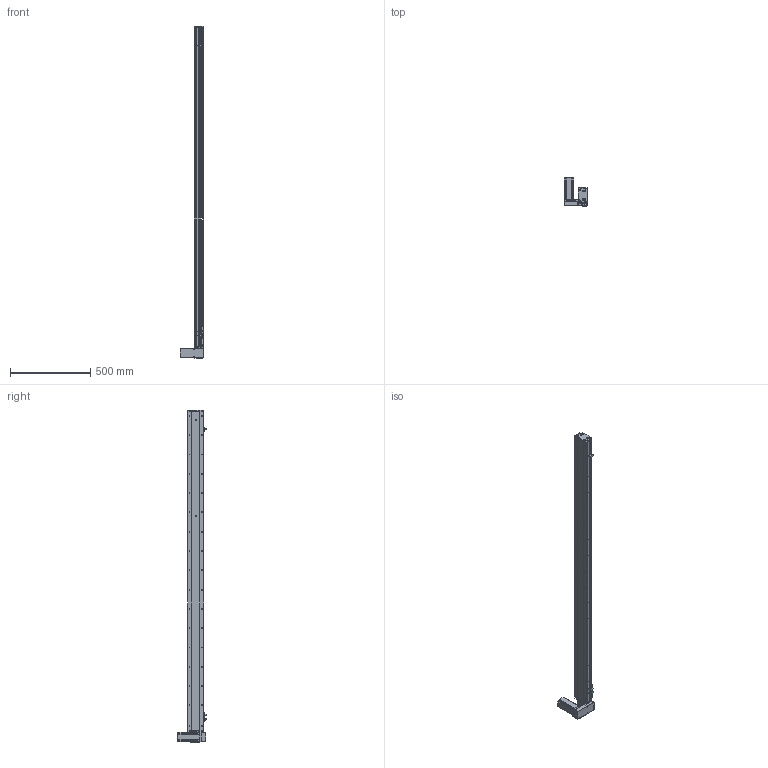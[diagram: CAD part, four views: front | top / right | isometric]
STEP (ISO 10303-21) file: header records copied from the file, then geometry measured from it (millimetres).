
FILE_DESCRIPTION (( 'STEP AP214' ), '1' );
FILE_NAME ('KSD100B-S1800-MRD-CM.STEP', '2019-10-16T08:19:41', ( '微软用户' ), ( '微软中国' ), 'SwSTEP 2.0', 'SolidWorks 2014', '' );
FILE_SCHEMA (( 'AUTOMOTIVE_DESIGN' ));
Length unit declared in the file: millimetre
Products named in the file (12): 悵誘欶奻狟殏; 100宽马达安装板连板上下折丝杆同步带; 台达ECMA－C20604AS伺服电机; U倰嫖萇EEㄜSX672; 覜茼え100遵圉猾敕; 100宽防尘板1800行程-同步带; 100宽马达安装板同步带右; 100宽同步带安装板半封闭; 100宽马达安装板同步带; 100遵傷啣肮祭湍; 100宽底板半封闭同步带1800行程; KSD100B-S1800-MRD-CM
Assembly tree (13 placements, depth 2):
  KSD100B-S1800-MRD-CM
    100宽底板半封闭同步带1800行程
    100遵傷啣肮祭湍
    100宽马达安装板同步带
    100宽同步带安装板半封闭
    100宽马达安装板同步带右
    100宽防尘板1800行程-同步带
    覜茼え100遵圉猾敕
    U倰嫖萇EEㄜSX672  x3
    台达ECMA－C20604AS伺服电机
    100宽马达安装板连板上下折丝杆同步带
    悵誘欶奻狟殏
Bounding box: 148 x 174.7 x 2065 mm (x, y, z)
Volume: 4274360.4 mm3; surface area: 1465187.3 mm2
Topology: 14 solids, 14 shells, 1699 faces, 4826 edges, 3037 vertices
Faces by surface type: cylinder 889, plane 619, cone 191
Entity records: 62631 total; most frequent: CARTESIAN_POINT 13520, DIRECTION 8430, ORIENTED_EDGE 8176, EDGE_CURVE 4088, AXIS2_PLACEMENT_3D 3109, VERTEX_POINT 2661, LINE 2212, VECTOR 2212
